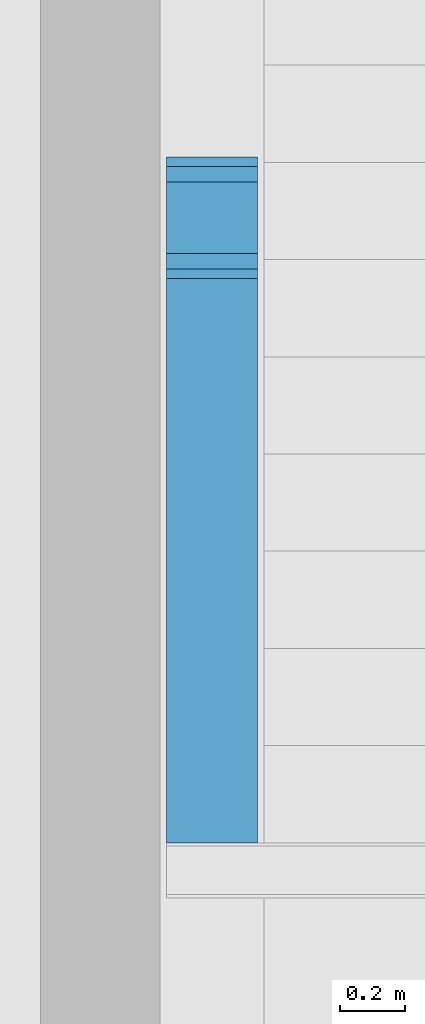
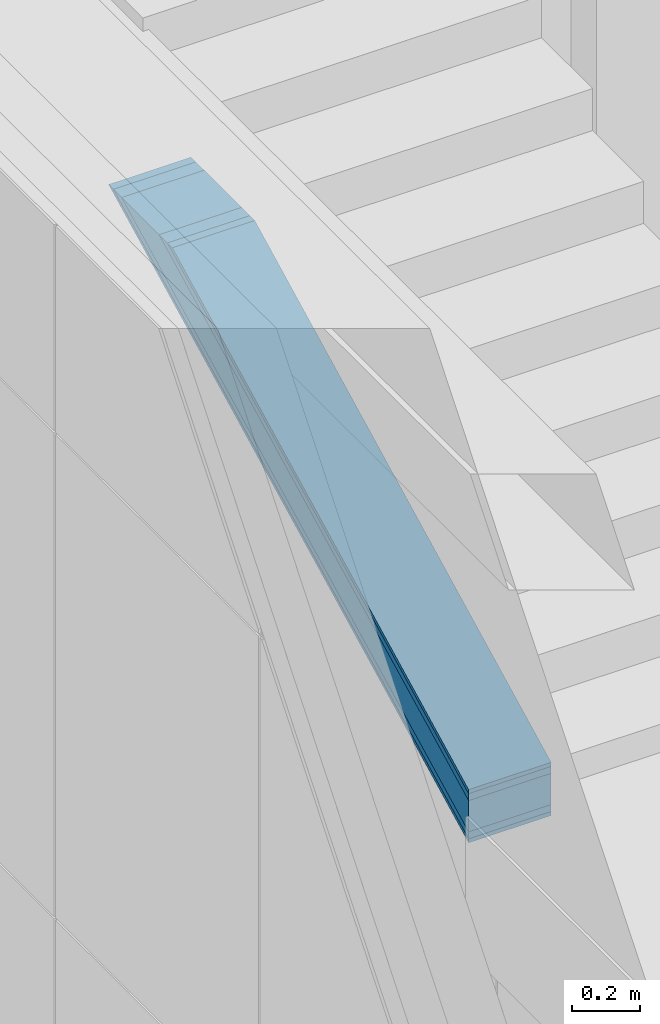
# One storey, part 108 of 418: 5 building element parts, 1 element without a shape of its own.
"""IFC2X3 building model written with IfcOpenShell, lengths in millimetres."""

from ifc_helpers import new_model, entity, si_unit, converted_unit, derived_unit, money_unit, direction, frame, origin_with_axes, place, context, subcontext, project, spatial, faceted_brep, material, type_object, element, aggregate, save


model = new_model("IFC2X3")

# Units and contexts
model_context = context("Model", 3, precision=0.01, world=origin_with_axes(), true_north=direction((0.0, 1.0)))
body_context = subcontext(model_context, "Body", "Model", "MODEL_VIEW")
ifc_project = project(units=[si_unit("LENGTHUNIT", "METRE", prefix="MILLI"), si_unit("AREAUNIT", "SQUARE_METRE"), si_unit("VOLUMEUNIT", "CUBIC_METRE"), converted_unit("PLANEANGLEUNIT", "DEGREE", entity("IfcPlaneAngleMeasure", 0.0174532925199), si_unit("PLANEANGLEUNIT", "RADIAN"), dimensions=[0, 0, 0, 0, 0, 0, 0]), si_unit("SOLIDANGLEUNIT", "STERADIAN"), money_unit("EUR"), converted_unit("TIMEUNIT", "Year", entity("IfcTimeMeasure", 31556926.0), si_unit("TIMEUNIT", "SECOND"), dimensions=[0, 0, 1, 0, 0, 0, 0]), si_unit("MASSUNIT", "GRAM", prefix="KILO"), si_unit("THERMODYNAMICTEMPERATUREUNIT", "DEGREE_CELSIUS"), si_unit("LUMINOUSINTENSITYUNIT", "LUMEN"), si_unit("ENERGYUNIT", "JOULE", prefix="MEGA"), derived_unit("THERMALCONDUCTANCEUNIT", [(si_unit("POWERUNIT", "WATT"), 1), (si_unit("LENGTHUNIT", "METRE"), -1), (si_unit("THERMODYNAMICTEMPERATUREUNIT", "KELVIN"), -1)]), derived_unit("SPECIFICHEATCAPACITYUNIT", [(si_unit("ENERGYUNIT", "JOULE"), 1), (si_unit("MASSUNIT", "GRAM", prefix="KILO"), -1), (si_unit("THERMODYNAMICTEMPERATUREUNIT", "KELVIN"), -1)]), derived_unit("MASSDENSITYUNIT", [(si_unit("MASSUNIT", "GRAM", prefix="KILO"), 1), (si_unit("VOLUMEUNIT", "CUBIC_METRE"), -1)])], contexts=[model_context])

# Site, building, storey
site_placement = place(None, origin_with_axes())
site = spatial("IfcSite", under=ifc_project, at=site_placement, Name="Paldiski mnt 245/1, Tallinn, Harjumaa", CompositionType="COMPLEX")
building_placement = place(site_placement, origin_with_axes())
building = spatial("IfcBuilding", under=site, at=building_placement, Name="RKAS Hoone üldnimetus (kasutust iseloomustav) -> IFC Project Manager -> SOLIBRI", CompositionType="ELEMENT")
storey_placement = place(building_placement, origin_with_axes())
storey = spatial("IfcBuildingStorey", under=building, at=storey_placement, Name="Esimene korrus", CompositionType="ELEMENT", Elevation=0.0)

# Slab, building element parts
slab_type = type_object("IfcSlabType", Name="SS-14 170", PredefinedType="ROOF")
slab_placement = place(storey_placement, frame((-47310.0, -10890.5008533, 1593.37967309), z_axis=(0.0, 0.0, 1.0), x_axis=(-1.0, 0.0, 0.0)))
slab = element("IfcSlab", 1, at=slab_placement, inside=storey, type_object=slab_type, Name="SS-14", PredefinedType="ROOF")
ifc_material_1 = material(Name="Kipsplaat Knauf GKF vm")
building_element_part_1_placement = place(slab_placement, origin_with_axes())
building_element_part_1 = element("IfcBuildingElementPart", 2, at=building_element_part_1_placement, material=ifc_material_1, Name="Kipsplaat Knauf GKF vm", context=body_context, shape_type="Brep", body=[
    faceted_brep([(280.0, -1741.69123892, 1078.23147179), (280.0, 0.0, 190.795460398), (0.0, 0.0, 190.795460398), (0.0, -1741.69123892, 1078.23147179), (279.99999999, -1770.32619939, 1078.2314718), (279.99999999, 2.23625562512e-08, 176.205219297), (-2.97859514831e-08, 2.23607798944e-08, 176.205219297), (-2.97717406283e-08, -1770.32619939, 1078.2314718)], [[[0, 1, 2, 3]], [[0, 4, 5, 1]], [[1, 5, 6, 2]], [[2, 6, 7, 3]], [[3, 7, 4, 0]], [[4, 7, 6, 5]]]),
])
ifc_material_2 = material(Name="OSB plaat")
building_element_part_2_placement = place(slab_placement, origin_with_axes())
building_element_part_2 = element("IfcBuildingElementPart", 3, at=building_element_part_2_placement, material=ifc_material_2, Name="OSB plaat", context=body_context, shape_type="Brep", body=[
    faceted_brep([(-2.97717406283e-08, -1770.32619939, 1078.2314718), (-8.01847477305e-08, -1818.78536326, 1078.23147183), (279.999999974, -1818.78536326, 1078.23147183), (279.99999999, -1770.32619939, 1078.2314718), (-2.97859514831e-08, 2.23607798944e-08, 176.205219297), (-8.01918531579e-08, 6.0204286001e-08, 151.51404205), (279.999999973, 6.02060623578e-08, 151.51404205), (279.99999999, 2.23625562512e-08, 176.205219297)], [[[0, 1, 2, 3]], [[4, 5, 1, 0]], [[2, 1, 5, 6]], [[3, 2, 6, 7]], [[3, 7, 4, 0]], [[7, 6, 5, 4]]]),
])
ifc_material_3 = material(Name="Isover Acoustic")
building_element_part_3_placement = place(slab_placement, origin_with_axes())
building_element_part_3 = element("IfcBuildingElementPart", 4, at=building_element_part_3_placement, material=ifc_material_3, Name="Isover Acoustic", context=body_context, shape_type="Brep", body=[
    faceted_brep([(-8.01847477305e-08, -1818.78536326, 1078.23147183), (-3.09320569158e-07, -2039.05428992, 1078.23147193), (279.999999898, -2039.05428992, 1078.23147193), (279.999999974, -1818.78536326, 1078.23147183), (-8.01918531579e-08, 6.02025096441e-08, 151.51404205), (-3.09320569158e-07, 2.32217800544e-07, 39.2814181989), (279.999999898, 2.32217800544e-07, 39.2814181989), (279.999999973, 6.02060623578e-08, 151.51404205)], [[[0, 1, 2, 3]], [[4, 5, 1, 0]], [[2, 1, 5, 6]], [[3, 2, 6, 7]], [[3, 7, 4, 0]], [[7, 6, 5, 4]]]),
])
building_element_part_4_placement = place(slab_placement, origin_with_axes())
building_element_part_4 = element("IfcBuildingElementPart", 5, at=building_element_part_4_placement, material=ifc_material_2, Name="OSB plaat", context=body_context, shape_type="Brep", body=[
    faceted_brep([(-3.09320569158e-07, -2039.05428992, 1078.23147193), (-3.59733576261e-07, -2087.51345378, 1078.23147195), (279.999999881, -2087.51345378, 1078.23147195), (279.999999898, -2039.05428992, 1078.23147193), (-3.09320569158e-07, 2.32217800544e-07, 39.2814181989), (-3.59726470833e-07, 2.70061306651e-07, 14.5902409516), (279.999999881, 2.70061306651e-07, 14.5902409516), (279.999999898, 2.32217800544e-07, 39.2814181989)], [[[0, 1, 2, 3]], [[4, 5, 1, 0]], [[2, 1, 5, 6]], [[3, 2, 6, 7]], [[3, 7, 4, 0]], [[7, 6, 5, 4]]]),
])
building_element_part_5_placement = place(slab_placement, origin_with_axes())
building_element_part_5 = element("IfcBuildingElementPart", 6, at=building_element_part_5_placement, material=ifc_material_1, Name="Kipsplaat Knauf GKF vm", context=body_context, shape_type="Brep", body=[
    faceted_brep([(-3.59733576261e-07, -2087.51345378, 1078.23147195), (-3.89519527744e-07, -2116.14841409, 1078.23147197), (279.999999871, -2116.14841409, 1078.23147197), (279.999999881, -2087.51345378, 1078.23147195), (-3.59726470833e-07, 2.70059530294e-07, 14.5902409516), (-3.89512422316e-07, 2.92422086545e-07, -6.53774812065e-08), (279.999999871, 2.92422086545e-07, -6.53774812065e-08), (279.999999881, 2.70061306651e-07, 14.5902409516)], [[[0, 1, 2, 3]], [[4, 5, 1, 0]], [[1, 5, 6, 2]], [[3, 2, 6, 7]], [[3, 7, 4, 0]], [[7, 6, 5, 4]]]),
])
aggregate(slab, [building_element_part_1, building_element_part_2, building_element_part_3, building_element_part_4, building_element_part_5])

save(model, "model.ifc")
